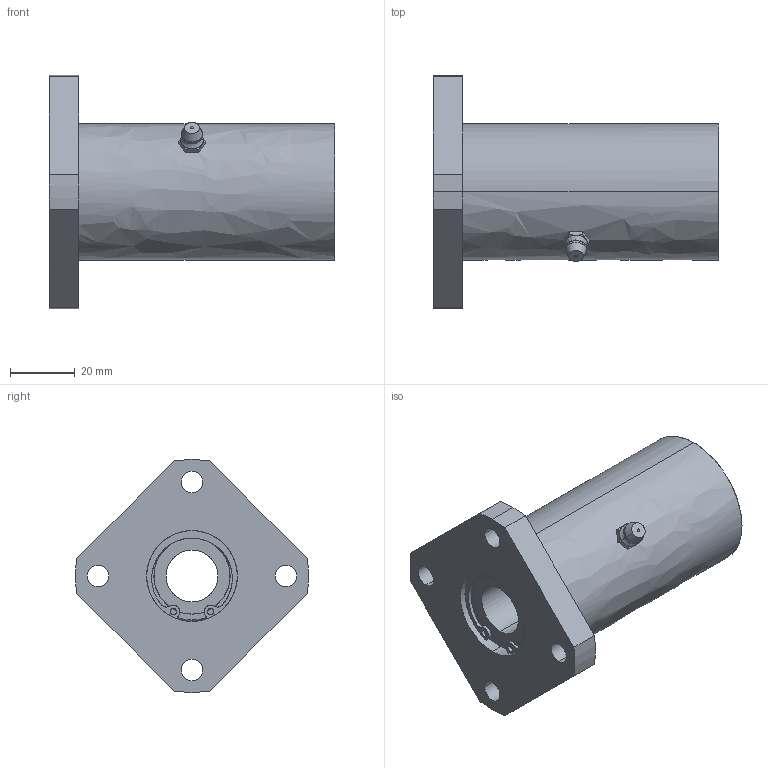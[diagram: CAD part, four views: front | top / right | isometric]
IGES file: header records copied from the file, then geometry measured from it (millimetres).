
Global section: file name: No Iges File Name specified; native system: AutoDesk Inventor R10; preprocessor: AutoDesk Inventor Iges Exporter R10; author: No Author specified; organization: No Organization specified; date: 20101214.140110; units: millimetre
Bounding box: 88 x 71.91 x 72 mm (x, y, z)
Surface area: 27105.4 mm2 (no closed solid volume)
Topology: 0 solids, 0 shells, 155 faces, 1070 edges, 1068 vertices
Faces by surface type: bspline 155
